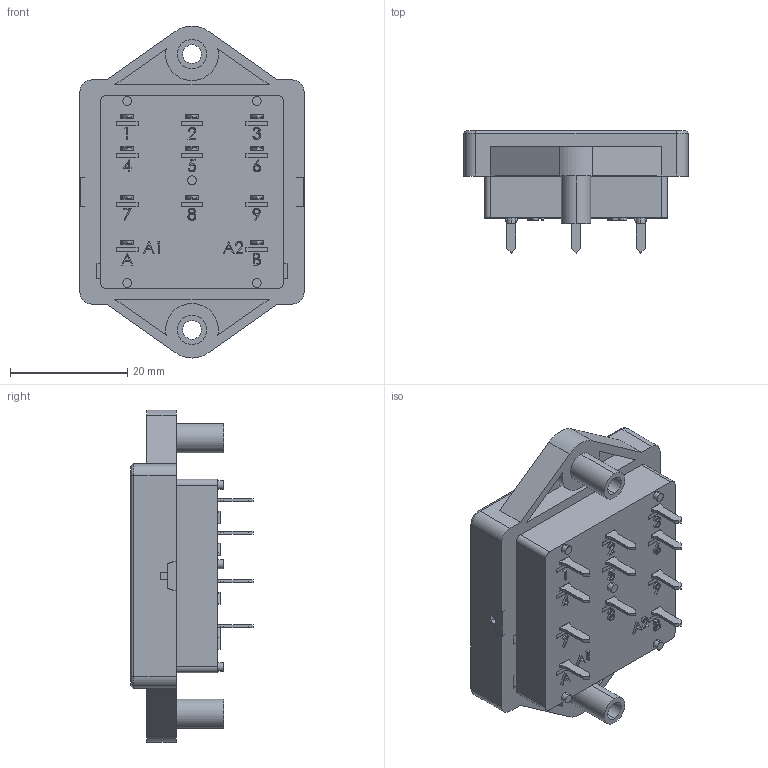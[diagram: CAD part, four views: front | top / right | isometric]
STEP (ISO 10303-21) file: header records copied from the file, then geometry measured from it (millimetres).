
FILE_DESCRIPTION (( 'STEP AP214' ), '1' );
FILE_NAME ('S5-PO.STEP', '2015-04-21T13:37:55', ( '' ), ( '' ), 'SwSTEP 2.0', 'SolidWorks 2015', '' );
FILE_SCHEMA (( 'AUTOMOTIVE_DESIGN' ));
Length unit declared in the file: millimetre
Products named in the file (1): S5-PO
Bounding box: 38.2 x 20.8 x 56.6 mm (x, y, z)
Volume: 14603.5 mm3; surface area: 9080.8 mm2
Topology: 1 solids, 3 shells, 995 faces, 2585 edges, 1716 vertices
Faces by surface type: plane 754, bspline 201, cylinder 36, torus 4
Entity records: 40779 total; most frequent: CARTESIAN_POINT 17626, ORIENTED_EDGE 5170, DIRECTION 3849, EDGE_CURVE 2585, LINE 2107, VECTOR 2107, VERTEX_POINT 1716, EDGE_LOOP 1119
